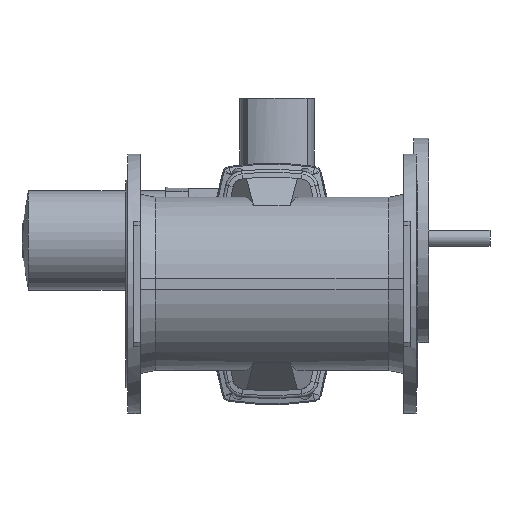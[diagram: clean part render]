
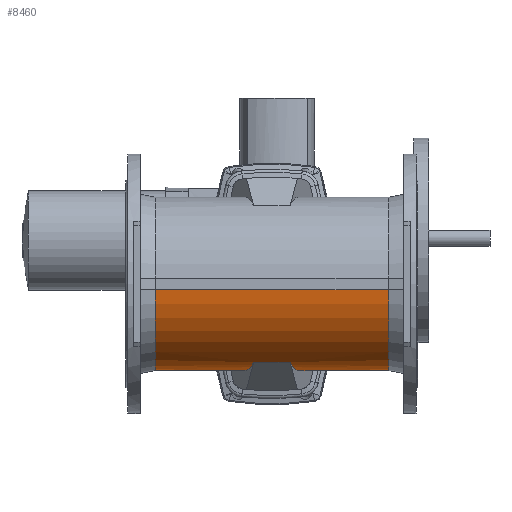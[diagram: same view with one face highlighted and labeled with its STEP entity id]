
A CAD part, front view. The second image highlights one B-rep face of the part: STEP entity #8460.
In plain terms, the highlighted cylindrical face has radius 133.5 mm (diameter 267 mm), a partial arc.
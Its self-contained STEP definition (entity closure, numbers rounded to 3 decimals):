
#103 = EDGE_CURVE ( 'NONE', #10695, #10725, #746, .T. ) ;
#105 = EDGE_CURVE ( 'NONE', #10695, #10702, #11943, .T. ) ;
#106 = EDGE_CURVE ( 'NONE', #10702, #10723, #11942, .T. ) ;
#107 = EDGE_CURVE ( 'NONE', #10723, #10722, #11946, .T. ) ;
#108 = EDGE_CURVE ( 'NONE', #10694, #10722, #11947, .T. ) ;
#109 = EDGE_CURVE ( 'NONE', #10724, #10694, #11944, .T. ) ;
#110 = EDGE_CURVE ( 'NONE', #10724, #10719, #745, .T. ) ;
#111 = EDGE_CURVE ( 'NONE', #10725, #10719, #11950, .T. ) ;
#745 =( BOUNDED_CURVE ( )  B_SPLINE_CURVE ( 3, ( #7835, #7833, #7828, #7836 ),
 .UNSPECIFIED., .F., .F. ) 
 B_SPLINE_CURVE_WITH_KNOTS ( ( 4, 4 ),
 ( 3.202, 5.158 ),
 .UNSPECIFIED. ) 
 CURVE ( )  GEOMETRIC_REPRESENTATION_ITEM ( )  RATIONAL_B_SPLINE_CURVE ( ( 1., 0.706, 0.706, 1. ) ) 
 REPRESENTATION_ITEM ( '' )  );
#746 =( BOUNDED_CURVE ( )  B_SPLINE_CURVE ( 3, ( #7814, #7810, #7799, #7815 ),
 .UNSPECIFIED., .F., .F. ) 
 B_SPLINE_CURVE_WITH_KNOTS ( ( 4, 4 ),
 ( 3.202, 5.158 ),
 .UNSPECIFIED. ) 
 CURVE ( )  GEOMETRIC_REPRESENTATION_ITEM ( )  RATIONAL_B_SPLINE_CURVE ( ( 1., 0.706, 0.706, 1. ) ) 
 REPRESENTATION_ITEM ( '' )  );
#4104 = DIRECTION ( 'NONE',  ( 0., 0., 1. ) ) ;
#4108 = DIRECTION ( 'NONE',  ( -1., 0., 0. ) ) ;
#4109 = CARTESIAN_POINT ( 'NONE',  ( 115., 0., 0. ) ) ;
#4686 = AXIS2_PLACEMENT_3D ( 'NONE', #4109, #4108, #4104 ) ;
#4959 = FACE_OUTER_BOUND ( 'NONE', #9502, .T. ) ;
#4965 = CYLINDRICAL_SURFACE ( 'NONE', #4686, 133.5 ) ;
#6451 = CARTESIAN_POINT ( 'NONE',  ( -179.85, 133.26, -8. ) ) ;
#6452 = CARTESIAN_POINT ( 'NONE',  ( 70.404, 133.26, -8. ) ) ;
#6459 = CARTESIAN_POINT ( 'NONE',  ( 179.85, 133.26, -8. ) ) ;
#6476 = CARTESIAN_POINT ( 'NONE',  ( -28.117, -57.481, -120.491 ) ) ;
#6479 = CARTESIAN_POINT ( 'NONE',  ( -179.85, -133.196, -9. ) ) ;
#6480 = CARTESIAN_POINT ( 'NONE',  ( 179.85, -133.196, -9. ) ) ;
#6481 = CARTESIAN_POINT ( 'NONE',  ( -70.404, 133.26, -8. ) ) ;
#6482 = CARTESIAN_POINT ( 'NONE',  ( 28.117, -57.481, -120.491 ) ) ;
#7297 = ORIENTED_EDGE ( 'NONE', *, *, #103, .F. ) ;
#7298 = ORIENTED_EDGE ( 'NONE', *, *, #105, .T. ) ;
#7299 = ORIENTED_EDGE ( 'NONE', *, *, #106, .T. ) ;
#7300 = ORIENTED_EDGE ( 'NONE', *, *, #107, .T. ) ;
#7301 = ORIENTED_EDGE ( 'NONE', *, *, #108, .F. ) ;
#7302 = ORIENTED_EDGE ( 'NONE', *, *, #109, .F. ) ;
#7303 = ORIENTED_EDGE ( 'NONE', *, *, #110, .T. ) ;
#7304 = ORIENTED_EDGE ( 'NONE', *, *, #111, .F. ) ;
#7799 = CARTESIAN_POINT ( 'NONE',  ( 49.043, 36.91, -165.522 ) ) ;
#7810 = CARTESIAN_POINT ( 'NONE',  ( 69.014, 126.993, -112.394 ) ) ;
#7813 = DIRECTION ( 'NONE',  ( -1., 0., 0. ) ) ;
#7814 = CARTESIAN_POINT ( 'NONE',  ( 70.404, 133.26, -8. ) ) ;
#7815 = CARTESIAN_POINT ( 'NONE',  ( 28.117, -57.481, -120.491 ) ) ;
#7818 = CARTESIAN_POINT ( 'NONE',  ( 115., 133.26, -8. ) ) ;
#7819 = CARTESIAN_POINT ( 'NONE',  ( 115., -133.196, -9. ) ) ;
#7820 = DIRECTION ( 'NONE',  ( 1., 0., 0. ) ) ;
#7823 = DIRECTION ( 'NONE',  ( -1., 0., 0. ) ) ;
#7824 = CARTESIAN_POINT ( 'NONE',  ( 179.85, 0., 0. ) ) ;
#7825 = DIRECTION ( 'NONE',  ( -1., 0., 0. ) ) ;
#7826 = DIRECTION ( 'NONE',  ( 0., 0., 1. ) ) ;
#7828 = CARTESIAN_POINT ( 'NONE',  ( -49.043, 36.91, -165.522 ) ) ;
#7829 = CARTESIAN_POINT ( 'NONE',  ( -115., 133.26, -8. ) ) ;
#7830 = CARTESIAN_POINT ( 'NONE',  ( -179.85, 0., 0. ) ) ;
#7831 = DIRECTION ( 'NONE',  ( -1., 0., 0. ) ) ;
#7832 = DIRECTION ( 'NONE',  ( 0., 0., 1. ) ) ;
#7833 = CARTESIAN_POINT ( 'NONE',  ( -69.014, 126.993, -112.394 ) ) ;
#7835 = CARTESIAN_POINT ( 'NONE',  ( -70.404, 133.26, -8. ) ) ;
#7836 = CARTESIAN_POINT ( 'NONE',  ( -28.117, -57.481, -120.491 ) ) ;
#7837 = CARTESIAN_POINT ( 'NONE',  ( 0., -57.481, -120.491 ) ) ;
#7838 = DIRECTION ( 'NONE',  ( -1., 0., 0. ) ) ;
#8460 = ADVANCED_FACE ( 'NONE', ( #4959 ), #4965, .T. ) ;
#9502 = EDGE_LOOP ( 'NONE', ( #7297, #7298, #7299, #7300, #7301, #7302, #7303, #7304 ) ) ;
#9922 = AXIS2_PLACEMENT_3D ( 'NONE', #7824, #7825, #7826 ) ;
#9923 = AXIS2_PLACEMENT_3D ( 'NONE', #7830, #7831, #7832 ) ;
#10694 = VERTEX_POINT ( 'NONE', #6451 ) ;
#10695 = VERTEX_POINT ( 'NONE', #6452 ) ;
#10702 = VERTEX_POINT ( 'NONE', #6459 ) ;
#10719 = VERTEX_POINT ( 'NONE', #6476 ) ;
#10722 = VERTEX_POINT ( 'NONE', #6479 ) ;
#10723 = VERTEX_POINT ( 'NONE', #6480 ) ;
#10724 = VERTEX_POINT ( 'NONE', #6481 ) ;
#10725 = VERTEX_POINT ( 'NONE', #6482 ) ;
#11942 = CIRCLE ( 'NONE', #9922, 133.5 ) ;
#11943 = LINE ( 'NONE', #7818, #11945 ) ;
#11944 = LINE ( 'NONE', #7829, #11951 ) ;
#11945 = VECTOR ( 'NONE', #7820, 1000. ) ;
#11946 = LINE ( 'NONE', #7819, #11948 ) ;
#11947 = CIRCLE ( 'NONE', #9923, 133.5 ) ;
#11948 = VECTOR ( 'NONE', #7813, 1000. ) ;
#11949 = VECTOR ( 'NONE', #7838, 1000. ) ;
#11950 = LINE ( 'NONE', #7837, #11949 ) ;
#11951 = VECTOR ( 'NONE', #7823, 1000. ) ;
